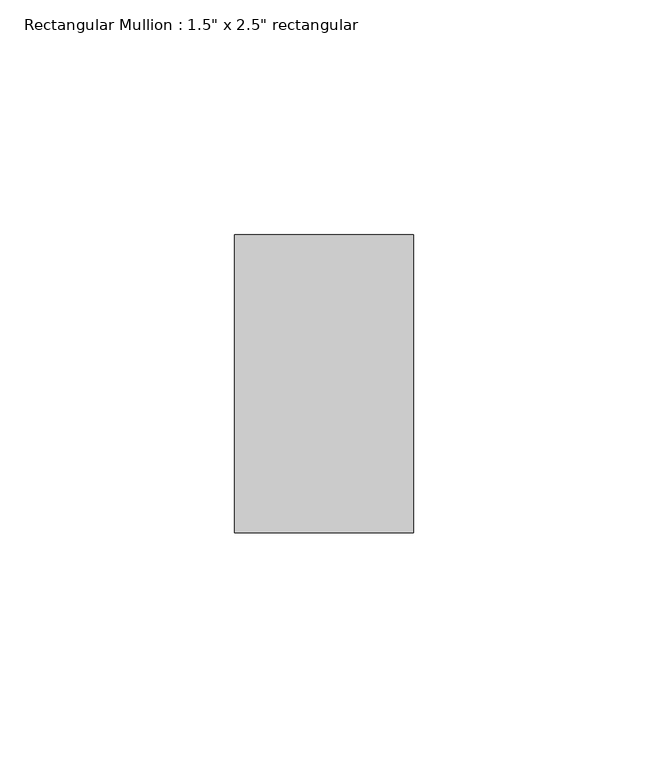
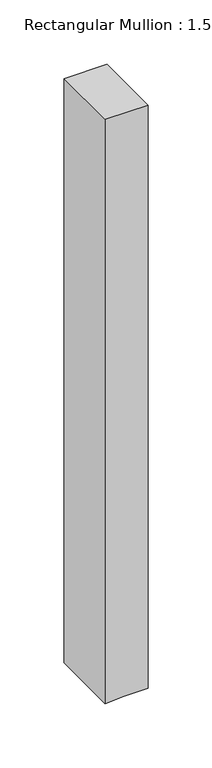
"""IFC4 building model written with IfcOpenShell, lengths in millimetres: member geometry."""

from ifc_helpers import new_model, si_unit, frame, origin, place, context, project, spatial, polyline, outline, extrude, source, transform, mapped, element, save


def member_0c159b81(model_context):
    return source(origin(), model_context, "Body", "SweptSolid", [
        extrude(outline(polyline([(0.0, 19.05), (0.0, -19.05), (-552.9434941, -19.05), (-551.9846257, -2.2389471), (-551.696361, 19.05), (0.0, 19.05)])), frame((0.0, -31.75, 0.0), z_axis=(0.0, 1.0, 0.0), x_axis=(0.0, 0.0, 1.0)), (0.0, 0.0, 1.0), 63.5),
    ])


if __name__ == "__main__":
    model = new_model("IFC4")
    model_context = context("Model", 3, world=origin())
    ifc_project = project(units=[si_unit("LENGTHUNIT", "METRE", prefix="MILLI")], contexts=[model_context])
    site = spatial("IfcSite", under=ifc_project)
    building = spatial("IfcBuilding", under=site)
    placement = place(None, origin())
    member_shape = member_0c159b81(model_context)
    element("IfcMember", 1, ObjectType="Rectangular Mullion : 1.5\" x 2.5\" rectangular", at=placement, inside=building, context=model_context, shape_type="MappedRepresentation", body=[
        mapped(member_shape, transform((0.0, 0.0, 0.0), x_axis=(1.0, 0.0, 0.0), y_axis=(0.0, 1.0, 0.0), z_axis=(0.0, 0.0, 1.0))),
    ])
    save(model, "model.ifc")
